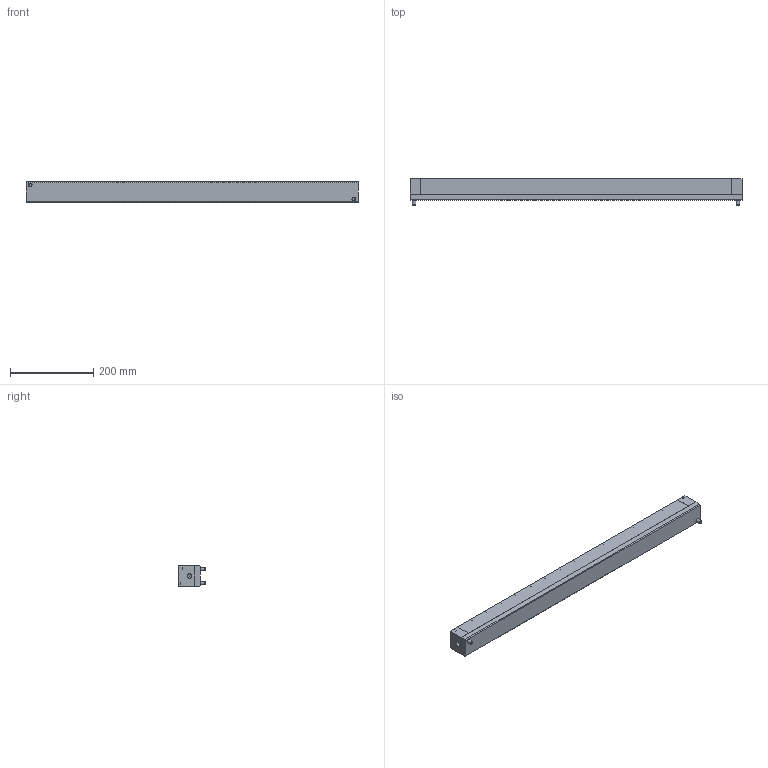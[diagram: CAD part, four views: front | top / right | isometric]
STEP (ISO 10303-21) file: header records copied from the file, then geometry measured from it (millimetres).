
FILE_DESCRIPTION( ( 'STEP AP214' ), '1' );
FILE_NAME( 'Z:/01-DesignData/標準品図面/★Web／カタログ用データ(型式別 3点Set)/072-ISR-C50D 系/ISR-C50D-800-A_0_.stp', '2022-05-10T00:44:19', ( 'License CC BY-ND 4.0' ), ( 'CADENAS' ), ' ', 'PARTsolutions', ' ' );
FILE_SCHEMA( ( 'AUTOMOTIVE_DESIGN { 1 0 10303 214 1 1 1 1 }' ) );
Length unit declared in the file: millimetre
Products named in the file (5): ISR-C50D-800-A(0); _ISR-C50D-800-A-Body; _ISR-C50D-800-A-Box; _ISR-C50D-800-A(0)-Ball; _ISR-C50D-800-A-screw
Assembly tree (19 placements, depth 2):
  ISR-C50D-800-A(0)
    _ISR-C50D-800-A-Body
    _ISR-C50D-800-A-Box
    _ISR-C50D-800-A(0)-Ball  x15
    _ISR-C50D-800-A-screw  x2
Bounding box: 800 x 64 x 49.5 mm (x, y, z)
Volume: 1950731 mm3; surface area: 443135.7 mm2
Topology: 19 solids, 19 shells, 878 faces, 1872 edges, 1145 vertices
Faces by surface type: plane 599, cylinder 147, torus 64, cone 53, sphere 15
Full cylindrical faces by diameter (mm): 8 x2, 8.5 x30, 9 x2, 9.5 x30, 13 x4, 14.5 x4, 25.4 x15, 38.5 x15, 39 x15, 42 x30
Entity records: 23960 total; most frequent: DIRECTION 3250, CARTESIAN_POINT 2999, ORIENTED_EDGE 2662, EDGE_CURVE 1331, AXIS2_PLACEMENT_3D 1181, EDGE_LOOP 996, VERTEX_POINT 930, LINE 888
